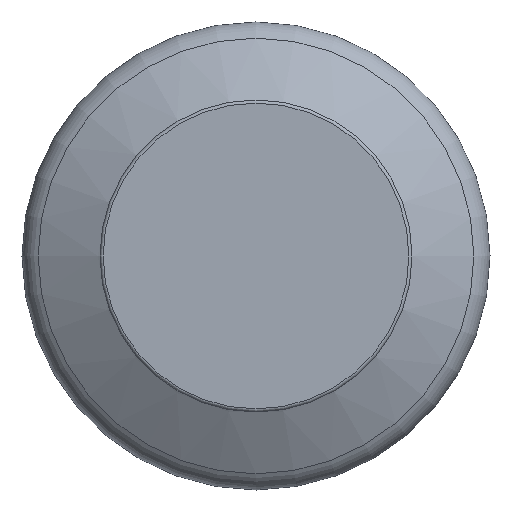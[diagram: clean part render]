
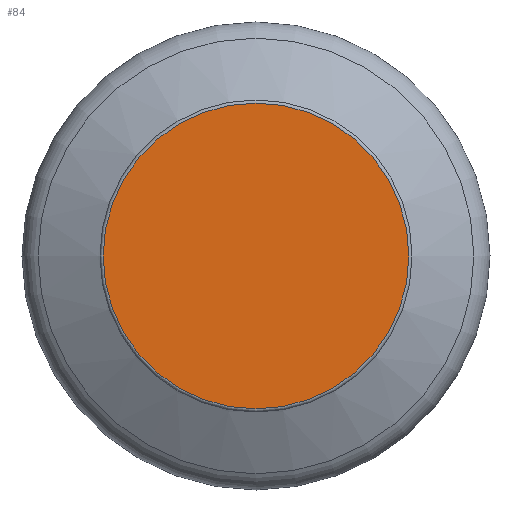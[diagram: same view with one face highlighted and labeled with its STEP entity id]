
A CAD part, front view. The second image highlights one B-rep face of the part: STEP entity #84.
In plain terms, the highlighted planar face has unit normal (0, -1, 0).
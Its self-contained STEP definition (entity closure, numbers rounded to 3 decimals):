
#68=CARTESIAN_POINT('',(-1.225,0.,0.0));
#69=DIRECTION('',(0.0,-1.0,0.0));
#70=DIRECTION('',(0.0,0.0,-1.0));
#71=AXIS2_PLACEMENT_3D('',#68,#69,#70);
#72=PLANE('',#71);
#73=CARTESIAN_POINT('',(-2.45,0.,0.0));
#74=VERTEX_POINT('',#73);
#75=CARTESIAN_POINT('',(0.0,0.,0.0));
#76=DIRECTION('',(0.0,1.0,0.0));
#77=DIRECTION('',(-1.0,0.0,0.0));
#78=AXIS2_PLACEMENT_3D('',#75,#76,#77);
#79=CIRCLE('',#78,2.45);
#80=EDGE_CURVE('',#74,#74,#79,.T.);
#81=ORIENTED_EDGE('',*,*,#80,.F.);
#82=EDGE_LOOP('',(#81));
#83=FACE_OUTER_BOUND('',#82,.T.);
#84=ADVANCED_FACE('',(#83),#72,.T.);
